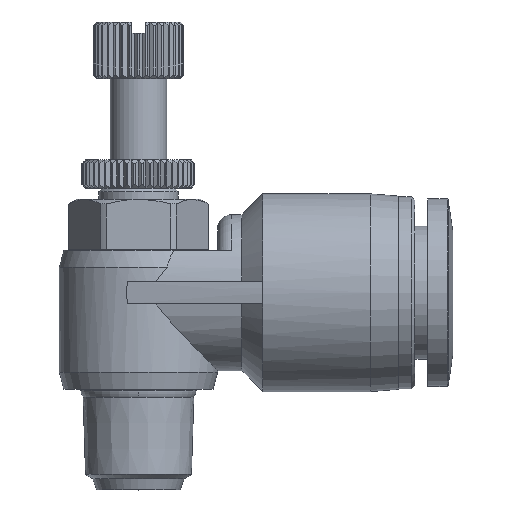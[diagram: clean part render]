
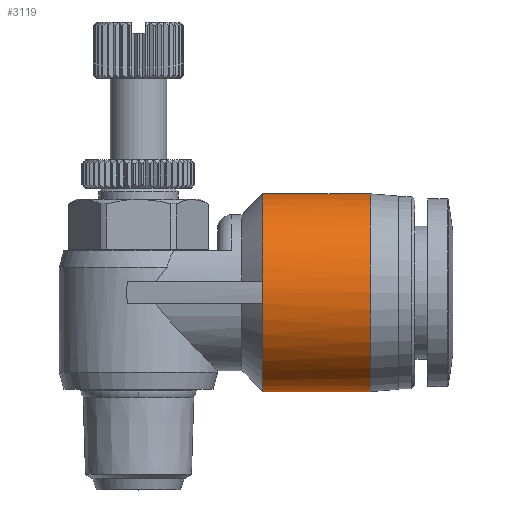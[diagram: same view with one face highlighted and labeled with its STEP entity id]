
A CAD part, top view. The second image highlights one B-rep face of the part: STEP entity #3119.
In plain terms, the highlighted cylindrical face has radius 8.75 mm (diameter 17.5 mm), a partial arc.
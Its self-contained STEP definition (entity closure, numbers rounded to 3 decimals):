
#423 = CARTESIAN_POINT ( 'NONE',  ( 11., 16.75, 0. ) ) ;
#1030 = DIRECTION ( 'NONE',  ( -1., 0., 0. ) ) ;
#1180 = CARTESIAN_POINT ( 'NONE',  ( 20.5, 16.75, 0. ) ) ;
#2033 = CARTESIAN_POINT ( 'NONE',  ( 11., 17.75, 8.693 ) ) ;
#2119 = AXIS2_PLACEMENT_3D ( 'NONE', #3775, #11229, #3659 ) ;
#2211 = DIRECTION ( 'NONE',  ( -1., 0., 0. ) ) ;
#2580 = VECTOR ( 'NONE', #2211, 1000. ) ;
#2971 = EDGE_CURVE ( 'NONE', #10298, #9996, #11900, .T. ) ;
#3093 = CYLINDRICAL_SURFACE ( 'NONE', #5423, 8.75 ) ;
#3119 = ADVANCED_FACE ( 'NONE', ( #6536 ), #3093, .T. ) ;
#3221 = DIRECTION ( 'NONE',  ( 0., -1., 0. ) ) ;
#3568 = EDGE_CURVE ( 'NONE', #7891, #10969, #5471, .T. ) ;
#3659 = DIRECTION ( 'NONE',  ( 0., -1., 0. ) ) ;
#3775 = CARTESIAN_POINT ( 'NONE',  ( 11., 16.75, 0. ) ) ;
#3797 = CARTESIAN_POINT ( 'NONE',  ( 11., 25.5, 0. ) ) ;
#4459 = EDGE_CURVE ( 'NONE', #4887, #10969, #8850, .T. ) ;
#4501 = VERTEX_POINT ( 'NONE', #5189 ) ;
#4674 = EDGE_CURVE ( 'NONE', #4501, #7891, #7731, .T. ) ;
#4887 = VERTEX_POINT ( 'NONE', #8916 ) ;
#5089 = EDGE_CURVE ( 'NONE', #4501, #10298, #12545, .T. ) ;
#5189 = CARTESIAN_POINT ( 'NONE',  ( 20.5, 8., 0. ) ) ;
#5423 = AXIS2_PLACEMENT_3D ( 'NONE', #7593, #9626, #13916 ) ;
#5471 = LINE ( 'NONE', #7637, #6751 ) ;
#5847 = EDGE_CURVE ( 'NONE', #9996, #4887, #7566, .T. ) ;
#6291 = AXIS2_PLACEMENT_3D ( 'NONE', #423, #10536, #11595 ) ;
#6317 = CARTESIAN_POINT ( 'NONE',  ( 11., 16.414, 8.769 ) ) ;
#6536 = FACE_OUTER_BOUND ( 'NONE', #6941, .T. ) ;
#6751 = VECTOR ( 'NONE', #9606, 1000. ) ;
#6941 = EDGE_LOOP ( 'NONE', ( #12000, #12044, #13053, #9454, #10046, #7694 ) ) ;
#7566 = B_SPLINE_CURVE_WITH_KNOTS ( 'NONE', 3,
 ( #12771, #6317, #10594, #2033 ),
 .UNSPECIFIED., .F., .F.,
 ( 4, 4 ),
 ( 0., 1. ),
 .UNSPECIFIED. ) ;
#7593 = CARTESIAN_POINT ( 'NONE',  ( 15.75, 16.75, 0. ) ) ;
#7637 = CARTESIAN_POINT ( 'NONE',  ( 15.75, 25.5, 0. ) ) ;
#7694 = ORIENTED_EDGE ( 'NONE', *, *, #5089, .F. ) ;
#7731 = CIRCLE ( 'NONE', #9532, 8.75 ) ;
#7891 = VERTEX_POINT ( 'NONE', #9387 ) ;
#8036 = CARTESIAN_POINT ( 'NONE',  ( 11., 15.75, 8.693 ) ) ;
#8605 = CARTESIAN_POINT ( 'NONE',  ( 15.75, 8., 0. ) ) ;
#8850 = CIRCLE ( 'NONE', #2119, 8.75 ) ;
#8916 = CARTESIAN_POINT ( 'NONE',  ( 11., 17.75, 8.693 ) ) ;
#9387 = CARTESIAN_POINT ( 'NONE',  ( 20.5, 25.5, 0. ) ) ;
#9454 = ORIENTED_EDGE ( 'NONE', *, *, #5847, .F. ) ;
#9532 = AXIS2_PLACEMENT_3D ( 'NONE', #1180, #1030, #3221 ) ;
#9606 = DIRECTION ( 'NONE',  ( -1., 0., 0. ) ) ;
#9626 = DIRECTION ( 'NONE',  ( -1., 0., 0. ) ) ;
#9996 = VERTEX_POINT ( 'NONE', #8036 ) ;
#10046 = ORIENTED_EDGE ( 'NONE', *, *, #2971, .F. ) ;
#10298 = VERTEX_POINT ( 'NONE', #10435 ) ;
#10435 = CARTESIAN_POINT ( 'NONE',  ( 11., 8., 0. ) ) ;
#10536 = DIRECTION ( 'NONE',  ( -1., 0., 0. ) ) ;
#10594 = CARTESIAN_POINT ( 'NONE',  ( 11., 17.086, 8.769 ) ) ;
#10969 = VERTEX_POINT ( 'NONE', #3797 ) ;
#11229 = DIRECTION ( 'NONE',  ( -1., 0., 0. ) ) ;
#11595 = DIRECTION ( 'NONE',  ( 0., -1., 0. ) ) ;
#11900 = CIRCLE ( 'NONE', #6291, 8.75 ) ;
#12000 = ORIENTED_EDGE ( 'NONE', *, *, #4674, .T. ) ;
#12044 = ORIENTED_EDGE ( 'NONE', *, *, #3568, .T. ) ;
#12545 = LINE ( 'NONE', #8605, #2580 ) ;
#12771 = CARTESIAN_POINT ( 'NONE',  ( 11., 15.75, 8.693 ) ) ;
#13053 = ORIENTED_EDGE ( 'NONE', *, *, #4459, .F. ) ;
#13916 = DIRECTION ( 'NONE',  ( 0., -1., 0. ) ) ;
